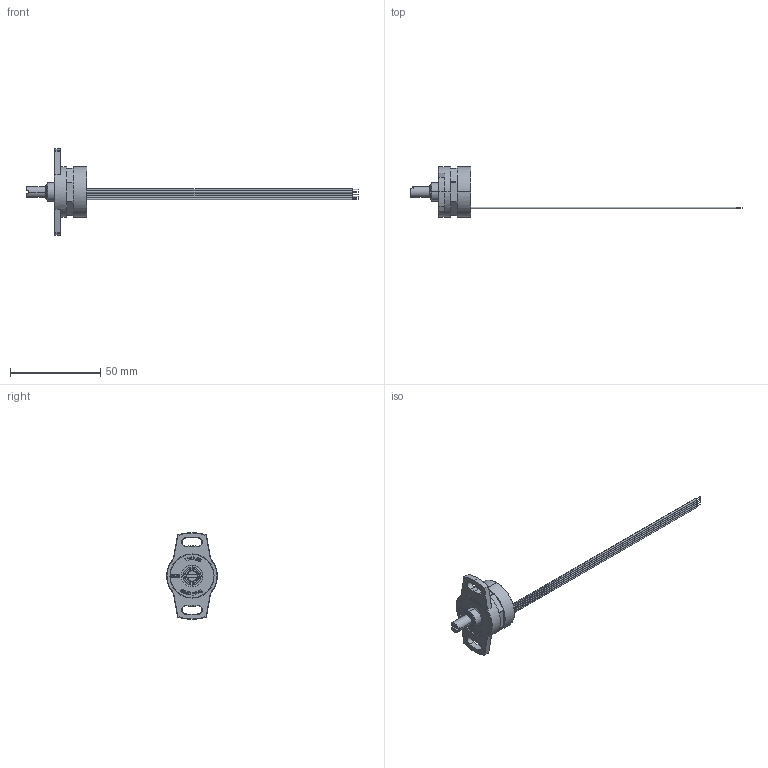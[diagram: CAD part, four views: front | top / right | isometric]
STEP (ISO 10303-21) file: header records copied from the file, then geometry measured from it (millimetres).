
FILE_DESCRIPTION (( 'STEP AP214' ), '1' );
FILE_NAME ('115.2.7_EN(x)28 F montiert.STEP', '2012-08-30T13:22:00', ( 'mega' ), ( 'mega' ), 'SwSTEP 2.0', 'SolidWorks 2012', '' );
FILE_SCHEMA (( 'AUTOMOTIVE_DESIGN' ));
Length unit declared in the file: millimetre
Products named in the file (11): 05_Flachbandkabel5x150_00; 09_Vergusmasse_00; 115.1.31_Lageraufnahme_02; c-ring external retaining ring_am_B27.8M - 3FM1-6; 124423_056.1.4_Magnet 6x2mm_00; 33_Anlaufscheibe02_00; 115.1.28_Achse Ø6_00; 29_Sinterbronzehüse-10-Ø6_00; 169.1.1_Gehäuse_00; 115.1.35_Flanschkopf_01; 115.2.7_EN(x)28 F montiert
Assembly tree (11 placements, depth 2):
  115.2.7_EN(x)28 F montiert
    115.1.35_Flanschkopf_01
    169.1.1_Gehäuse_00
    29_Sinterbronzehüse-10-Ø6_00
    115.1.28_Achse Ø6_00
    33_Anlaufscheibe02_00  x2
    124423_056.1.4_Magnet 6x2mm_00
    c-ring external retaining ring_am_B27.8M - 3FM1-6
    115.1.31_Lageraufnahme_02
    09_Vergusmasse_00
    05_Flachbandkabel5x150_00
Bounding box: 183.5 x 28 x 48 mm (x, y, z)
Volume: 10728.6 mm3; surface area: 14333.9 mm2
Topology: 11 solids, 11 shells, 659 faces, 1684 edges, 1094 vertices
Faces by surface type: plane 351, cylinder 132, bspline 97, torus 58, cone 13, sphere 8
Entity records: 26984 total; most frequent: CARTESIAN_POINT 10540, ORIENTED_EDGE 3340, DIRECTION 2950, EDGE_CURVE 1670, VERTEX_POINT 1086, LINE 1044, VECTOR 1044, AXIS2_PLACEMENT_3D 953
